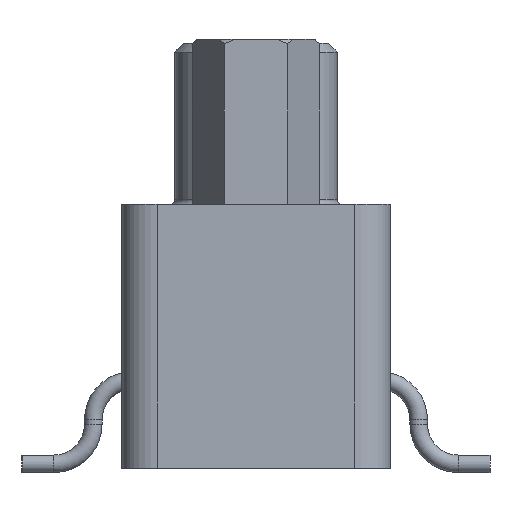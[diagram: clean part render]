
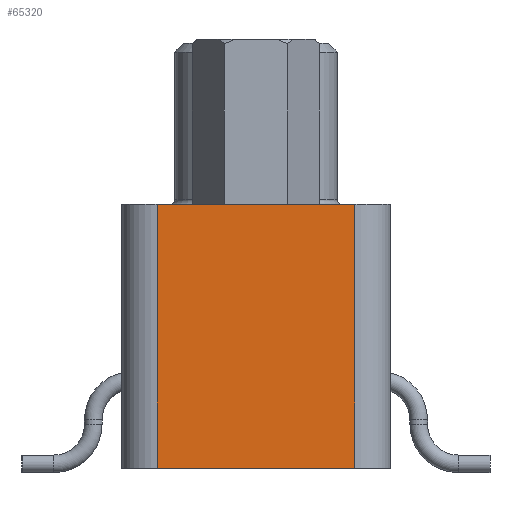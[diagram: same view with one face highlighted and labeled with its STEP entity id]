
A CAD part, left-side view. The second image highlights one B-rep face of the part: STEP entity #65320.
In plain terms, the highlighted planar face has unit normal (-1, 0, 0).
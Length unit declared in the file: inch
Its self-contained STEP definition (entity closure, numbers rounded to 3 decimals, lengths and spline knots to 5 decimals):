
#1440 = DIRECTION ( 'NONE',  ( 0., 0., -1. ) ) ;
#2054 = VECTOR ( 'NONE', #24480, 39.37008 ) ;
#2641 = VERTEX_POINT ( 'NONE', #47025 ) ;
#4210 = DIRECTION ( 'NONE',  ( -1., 0., 0. ) ) ;
#6983 = VECTOR ( 'NONE', #1440, 39.37008 ) ;
#7182 = CARTESIAN_POINT ( 'NONE',  ( -0.6625, -0.1125, 0.042 ) ) ;
#7762 = ORIENTED_EDGE ( 'NONE', *, *, #15021, .F. ) ;
#8665 = EDGE_CURVE ( 'NONE', #58204, #12504, #56443, .T. ) ;
#8883 = VERTEX_POINT ( 'NONE', #23515 ) ;
#12504 = VERTEX_POINT ( 'NONE', #19027 ) ;
#15021 = EDGE_CURVE ( 'NONE', #58204, #2641, #30354, .T. ) ;
#15989 = PLANE ( 'NONE',  #27313 ) ;
#18961 = DIRECTION ( 'NONE',  ( 0., 1., 0. ) ) ;
#19027 = CARTESIAN_POINT ( 'NONE',  ( -0.6625, 0.1125, 0.042 ) ) ;
#19759 = ORIENTED_EDGE ( 'NONE', *, *, #8665, .T. ) ;
#23515 = CARTESIAN_POINT ( 'NONE',  ( -0.6625, 0.1125, -0.258 ) ) ;
#24129 = LINE ( 'NONE', #67708, #2054 ) ;
#24480 = DIRECTION ( 'NONE',  ( 0., 0., -1. ) ) ;
#26104 = EDGE_CURVE ( 'NONE', #12504, #8883, #24129, .T. ) ;
#26502 = ORIENTED_EDGE ( 'NONE', *, *, #47566, .F. ) ;
#27313 = AXIS2_PLACEMENT_3D ( 'NONE', #37806, #4210, #52463 ) ;
#27943 = LINE ( 'NONE', #43334, #47651 ) ;
#30354 = LINE ( 'NONE', #7182, #6983 ) ;
#35916 = VECTOR ( 'NONE', #18961, 39.37008 ) ;
#36120 = CARTESIAN_POINT ( 'NONE',  ( -0.6625, -0.1125, 0.042 ) ) ;
#37464 = CARTESIAN_POINT ( 'NONE',  ( -0.6625, -0.1125, 0.042 ) ) ;
#37806 = CARTESIAN_POINT ( 'NONE',  ( -0.6625, -0.1125, 0.042 ) ) ;
#38987 = EDGE_LOOP ( 'NONE', ( #70083, #26502, #7762, #19759 ) ) ;
#39086 = DIRECTION ( 'NONE',  ( 0., 1., 0. ) ) ;
#43334 = CARTESIAN_POINT ( 'NONE',  ( -0.6625, -0.1125, -0.258 ) ) ;
#47025 = CARTESIAN_POINT ( 'NONE',  ( -0.6625, -0.1125, -0.258 ) ) ;
#47566 = EDGE_CURVE ( 'NONE', #2641, #8883, #27943, .T. ) ;
#47651 = VECTOR ( 'NONE', #39086, 39.37008 ) ;
#52463 = DIRECTION ( 'NONE',  ( 0., 0., 1. ) ) ;
#56443 = LINE ( 'NONE', #36120, #35916 ) ;
#58204 = VERTEX_POINT ( 'NONE', #37464 ) ;
#63843 = FACE_OUTER_BOUND ( 'NONE', #38987, .T. ) ;
#65320 = ADVANCED_FACE ( 'NONE', ( #63843 ), #15989, .T. ) ;
#67708 = CARTESIAN_POINT ( 'NONE',  ( -0.6625, 0.1125, 0.042 ) ) ;
#70083 = ORIENTED_EDGE ( 'NONE', *, *, #26104, .T. ) ;
